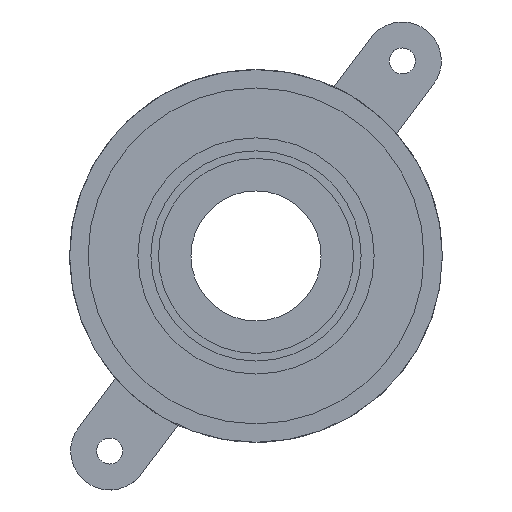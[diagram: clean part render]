
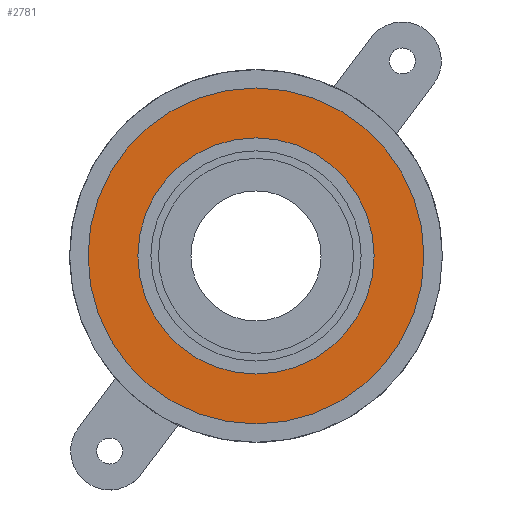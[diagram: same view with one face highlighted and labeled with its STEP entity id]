
A CAD part, top view. The second image highlights one B-rep face of the part: STEP entity #2781.
In plain terms, the highlighted planar face has unit normal (0, 0, 1).
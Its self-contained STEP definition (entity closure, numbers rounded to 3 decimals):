
#1464 = CYLINDRICAL_SURFACE('',#1465,15.5);
#1465 = AXIS2_PLACEMENT_3D('',#1466,#1467,#1468);
#1466 = CARTESIAN_POINT('',(36.,25.5,10.79));
#1467 = DIRECTION('',(0.,0.,1.));
#1468 = DIRECTION('',(1.,0.,0.));
#2607 = VERTEX_POINT('',#2608);
#2608 = CARTESIAN_POINT('',(51.5,25.5,14.8));
#2631 = EDGE_CURVE('',#2607,#2607,#2632,.T.);
#2632 = SURFACE_CURVE('',#2633,(#2638,#2645),.PCURVE_S1.);
#2633 = CIRCLE('',#2634,15.5);
#2634 = AXIS2_PLACEMENT_3D('',#2635,#2636,#2637);
#2635 = CARTESIAN_POINT('',(36.,25.5,14.8));
#2636 = DIRECTION('',(0.,0.,1.));
#2637 = DIRECTION('',(1.,0.,0.));
#2638 = PCURVE('',#1464,#2639);
#2639 = DEFINITIONAL_REPRESENTATION('',(#2640),#2644);
#2640 = LINE('',#2641,#2642);
#2641 = CARTESIAN_POINT('',(0.,4.01));
#2642 = VECTOR('',#2643,1.);
#2643 = DIRECTION('',(1.,0.));
#2644 = ( GEOMETRIC_REPRESENTATION_CONTEXT(2) 
PARAMETRIC_REPRESENTATION_CONTEXT() REPRESENTATION_CONTEXT('2D SPACE',''
  ) );
#2645 = PCURVE('',#2646,#2651);
#2646 = PLANE('',#2647);
#2647 = AXIS2_PLACEMENT_3D('',#2648,#2649,#2650);
#2648 = CARTESIAN_POINT('',(36.,25.5,14.8));
#2649 = DIRECTION('',(0.,0.,1.));
#2650 = DIRECTION('',(1.,0.,0.));
#2651 = DEFINITIONAL_REPRESENTATION('',(#2652),#2656);
#2652 = CIRCLE('',#2653,15.5);
#2653 = AXIS2_PLACEMENT_2D('',#2654,#2655);
#2654 = CARTESIAN_POINT('',(0.,0.));
#2655 = DIRECTION('',(1.,0.));
#2656 = ( GEOMETRIC_REPRESENTATION_CONTEXT(2) 
PARAMETRIC_REPRESENTATION_CONTEXT() REPRESENTATION_CONTEXT('2D SPACE',''
  ) );
#2781 = ADVANCED_FACE('',(#2782,#2785),#2646,.T.);
#2782 = FACE_BOUND('',#2783,.T.);
#2783 = EDGE_LOOP('',(#2784));
#2784 = ORIENTED_EDGE('',*,*,#2631,.T.);
#2785 = FACE_BOUND('',#2786,.T.);
#2786 = EDGE_LOOP('',(#2787));
#2787 = ORIENTED_EDGE('',*,*,#2788,.F.);
#2788 = EDGE_CURVE('',#2789,#2789,#2791,.T.);
#2789 = VERTEX_POINT('',#2790);
#2790 = CARTESIAN_POINT('',(46.9,25.5,14.8));
#2791 = SURFACE_CURVE('',#2792,(#2797,#2804),.PCURVE_S1.);
#2792 = CIRCLE('',#2793,10.9);
#2793 = AXIS2_PLACEMENT_3D('',#2794,#2795,#2796);
#2794 = CARTESIAN_POINT('',(36.,25.5,14.8));
#2795 = DIRECTION('',(0.,0.,1.));
#2796 = DIRECTION('',(1.,0.,0.));
#2797 = PCURVE('',#2646,#2798);
#2798 = DEFINITIONAL_REPRESENTATION('',(#2799),#2803);
#2799 = CIRCLE('',#2800,10.9);
#2800 = AXIS2_PLACEMENT_2D('',#2801,#2802);
#2801 = CARTESIAN_POINT('',(0.,0.));
#2802 = DIRECTION('',(1.,0.));
#2803 = ( GEOMETRIC_REPRESENTATION_CONTEXT(2) 
PARAMETRIC_REPRESENTATION_CONTEXT() REPRESENTATION_CONTEXT('2D SPACE',''
  ) );
#2804 = PCURVE('',#2805,#2810);
#2805 = CYLINDRICAL_SURFACE('',#2806,10.9);
#2806 = AXIS2_PLACEMENT_3D('',#2807,#2808,#2809);
#2807 = CARTESIAN_POINT('',(36.,25.5,14.79));
#2808 = DIRECTION('',(0.,0.,1.));
#2809 = DIRECTION('',(1.,0.,0.));
#2810 = DEFINITIONAL_REPRESENTATION('',(#2811),#2815);
#2811 = LINE('',#2812,#2813);
#2812 = CARTESIAN_POINT('',(0.,0.01));
#2813 = VECTOR('',#2814,1.);
#2814 = DIRECTION('',(1.,0.));
#2815 = ( GEOMETRIC_REPRESENTATION_CONTEXT(2) 
PARAMETRIC_REPRESENTATION_CONTEXT() REPRESENTATION_CONTEXT('2D SPACE',''
  ) );
